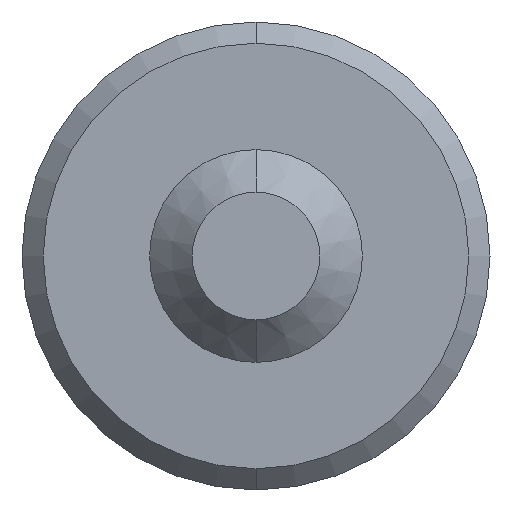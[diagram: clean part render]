
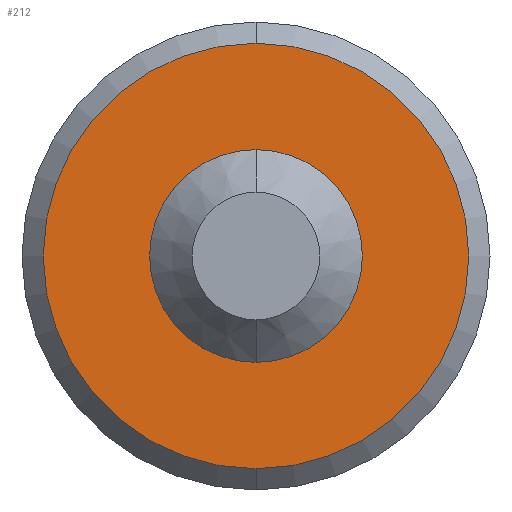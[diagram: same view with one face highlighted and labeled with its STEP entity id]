
A CAD part, front view. The second image highlights one B-rep face of the part: STEP entity #212.
In plain terms, the highlighted planar face has unit normal (0, -1, 0).
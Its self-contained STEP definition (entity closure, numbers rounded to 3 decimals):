
#11=CARTESIAN_POINT('',(11.901,1.087,0.));
#12=DIRECTION('',(0.,-1.,0.));
#13=DIRECTION('',(0.,0.,-1.));
#14=AXIS2_PLACEMENT_3D('',#11,#12,#13);
#16=CARTESIAN_POINT('',(11.901,1.087,0.));
#17=DIRECTION('',(0.,-1.,0.));
#18=DIRECTION('',(0.,0.,1.));
#19=AXIS2_PLACEMENT_3D('',#16,#17,#18);
#100=CARTESIAN_POINT('',(11.901,1.087,0.));
#101=DIRECTION('',(0.,-1.,0.));
#102=DIRECTION('',(0.,0.,-1.));
#103=AXIS2_PLACEMENT_3D('',#100,#101,#102);
#137=CARTESIAN_POINT('',(11.901,1.087,0.));
#138=DIRECTION('',(0.,-1.,0.));
#139=DIRECTION('',(0.,0.,1.));
#140=AXIS2_PLACEMENT_3D('',#137,#138,#139);
#152=CARTESIAN_POINT('',(11.901,1.087,-0.5));
#153=CARTESIAN_POINT('',(11.901,1.087,0.5));
#154=VERTEX_POINT('',#152);
#155=VERTEX_POINT('',#153);
#176=CARTESIAN_POINT('',(11.901,1.087,-0.25));
#177=VERTEX_POINT('',#176);
#178=CARTESIAN_POINT('',(11.901,1.087,0.25));
#179=VERTEX_POINT('',#178);
#196=CARTESIAN_POINT('',(11.401,1.087,0.));
#197=DIRECTION('',(0.,-1.,0.));
#198=DIRECTION('',(0.,0.,-1.));
#199=AXIS2_PLACEMENT_3D('',#196,#197,#198);
#200=PLANE('',#199);
#201=ORIENTED_EDGE('',*,*,#185,.F.);
#203=ORIENTED_EDGE('',*,*,#202,.F.);
#204=EDGE_LOOP('',(#201,#203));
#205=FACE_OUTER_BOUND('',#204,.F.);
#207=ORIENTED_EDGE('',*,*,#206,.T.);
#209=ORIENTED_EDGE('',*,*,#208,.T.);
#210=EDGE_LOOP('',(#207,#209));
#211=FACE_BOUND('',#210,.F.);
#212=ADVANCED_FACE('',(#205,#211),#200,.T.);
#15=CIRCLE('',#14,0.5);
#20=CIRCLE('',#19,0.5);
#104=CIRCLE('',#103,0.25);
#141=CIRCLE('',#140,0.25);
#185=EDGE_CURVE('',#154,#155,#15,.T.);
#202=EDGE_CURVE('',#155,#154,#20,.T.);
#206=EDGE_CURVE('',#177,#179,#104,.T.);
#208=EDGE_CURVE('',#179,#177,#141,.T.);
